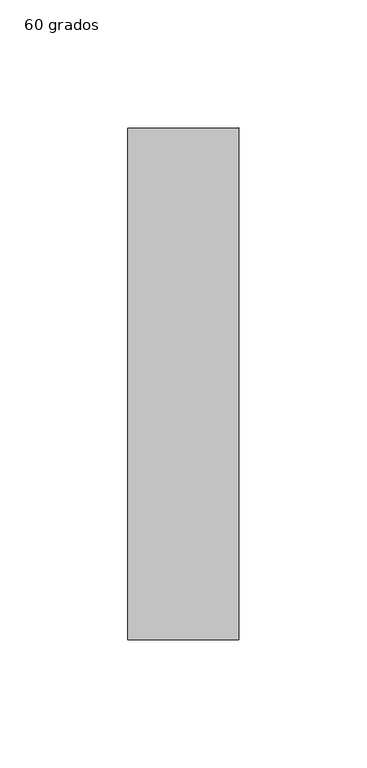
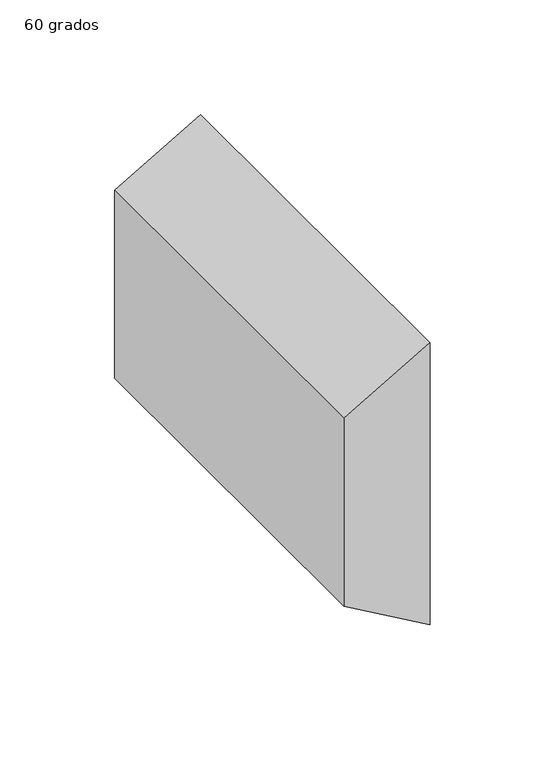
"""IFC4 building model written with IfcOpenShell, lengths in millimetres: duct fitting geometry, M_Transición rectangular - Ángulo : 60 grados."""

from ifc_helpers import new_model, si_unit, frame, origin, place, context, project, spatial, polyline, outline, extrude, source, transform, mapped, element, save


def duct_fitting_60_grados_429d0f95(model_context):
    return source(origin(), model_context, "Body", "SweptSolid", [
        extrude(outline(polyline([(50.0, 0.0), (-50.0, 0.0), (-75.0, 43.3012702), (75.0, 43.3012702), (50.0, 0.0)])), frame((0.0, -100.0, 0.0), z_axis=(0.0, 1.0, 0.0), x_axis=(0.0, 0.0, 1.0)), (0.0, 0.0, 1.0), 200.0),
    ])


if __name__ == "__main__":
    model = new_model("IFC4")
    model_context = context("Model", 3, world=origin())
    ifc_project = project(units=[si_unit("LENGTHUNIT", "METRE", prefix="MILLI")], contexts=[model_context])
    site = spatial("IfcSite", under=ifc_project)
    building = spatial("IfcBuilding", under=site)
    placement = place(None, origin())
    duct_fitting_60_grados_shape = duct_fitting_60_grados_429d0f95(model_context)
    element("IfcDuctFitting", 1, ObjectType="M_Transición rectangular - Ángulo : 60 grados", at=placement, inside=building, context=model_context, shape_type="MappedRepresentation", body=[
        mapped(duct_fitting_60_grados_shape, transform((0.0, 0.0, 0.0), x_axis=(1.0, 0.0, 0.0), y_axis=(0.0, 1.0, 0.0), z_axis=(0.0, 0.0, 1.0))),
    ])
    save(model, "model.ifc")
